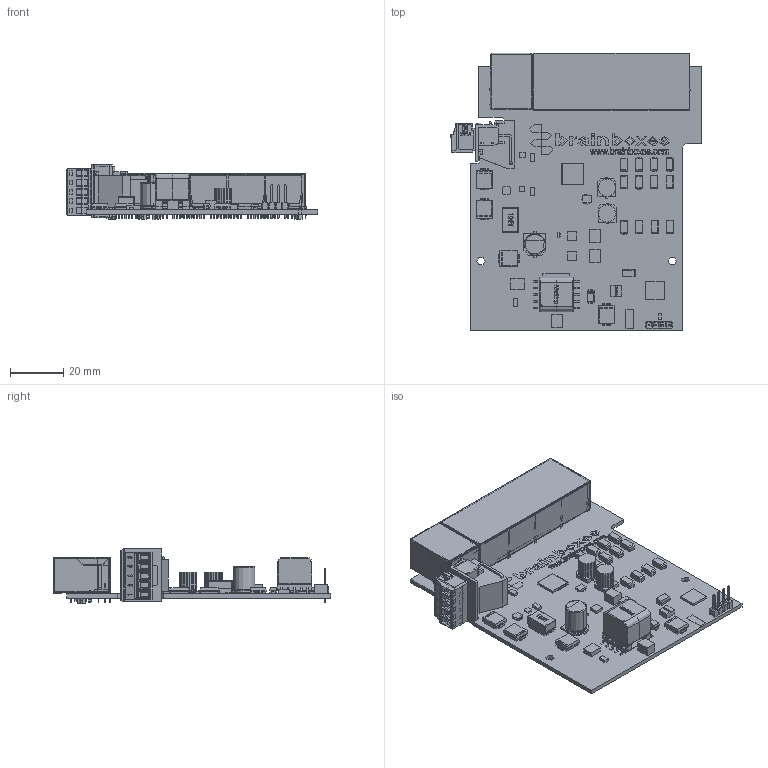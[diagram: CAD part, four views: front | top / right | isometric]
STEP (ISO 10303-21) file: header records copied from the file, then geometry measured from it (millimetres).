
FILE_DESCRIPTION(('STEP AP214'),'1');
FILE_NAME('SW-525 Uncased PCB 3D Step.step','2022-08-25T13:07:56',(' '),(' '),'Spatial InterOp 3D','XD3DPlugin XRACreate',' ');
FILE_SCHEMA(('automotive_design'));
Length unit declared in the file: millimetre
Products named in the file (93): Submodel-C:\Users\ben.hague\Desktop\3D Step\SW-525 Uncased PCB 3D Step_PCB\3D\Input_S\664U7H.xtd; 664U7H; Submodel-664U7H_part_simplified_30204020; DesignRootModel; Submodel-C:\Users\ben.hague\Desktop\3D Step\SW-525 Uncased PCB 3D Step_PCB\3D\Input_S\SMDLEDRA.xtd; SMDLEDRA; Submodel-55SMDLEDRAGREEN_part_simplified_SMDLEDRA; Submodel-C:\Users\ben.hague\Desktop\3D Step\SW-525 Uncased PCB 3D Step_PCB\3D\Input_S\00MAGJACK10100.xtd; 00MAGJACK10100; Submodel-00MAGJACK10100_part_simplified_MAGJACK10100; Submodel-C:\Users\ben.hague\Desktop\3D Step\SW-525 Uncased PCB 3D Step_PCB\3D\Input_S\00MAGJACK1X4POE.xtd; 00MAGJACK1X4POE; Submodel-00MAGJACK1X4POE_part_simplified_MAGJACK1X4POE; Submodel-C:\Users\ben.hague\Desktop\3D Step\SW-525 Uncased PCB 3D Step_PCB\3D\Input_S\50HEA2X1.xtd; 50HEA2X1; Submodel-50HEA2X1_part_simplified_H100MIL1X2; Submodel-C:\Users\ben.hague\Desktop\3D Step\SW-525 Uncased PCB 3D Step_PCB\3D\Input_S\6610UH1A03.xtd; 6610UH1A03; Submodel-6610UH1A03_part_simplified_3012; Submodel-C:\Users\ben.hague\Desktop\3D Step\SW-525 Uncased PCB 3D Step_PCB\3D\Input_S\55TVS58V400W.xtd; 55TVS58V400W; Submodel-55TVS58V400W_part_simplified_SMA; Submodel-C:\Users\ben.hague\Desktop\3D Step\SW-525 Uncased PCB 3D Step_PCB\3D\Input_S\SMC.xtd; SMC; Submodel-55TVS58V3KW_part_simplified_SMC; Submodel-C:\Users\ben.hague\Desktop\3D Step\SW-525 Uncased PCB 3D Step_PCB\3D\Input_S\66CHOKE2X4MH7.xtd; 66CHOKE2X4MH7; Submodel-66CHOKE2X4MH7_part_simplified_LINEFILTERD; Submodel-C:\Users\ben.hague\Desktop\3D Step\SW-525 Uncased PCB 3D Step_PCB\3D\Input_S\80750313812.xtd; 80750313812; Submodel-80750313812_part_simplified_TRANS10; Submodel-C:\Users\ben.hague\Desktop\3D Step\SW-525 Uncased PCB 3D Step_PCB\3D\Input_S\SMD_ELEC_F.xtd; SMD_ELEC_F; Submodel-7522UF100V_part_simplified_F; Submodel-C:\Users\ben.hague\Desktop\3D Step\SW-525 Uncased PCB 3D Step_PCB\3D\Input_S\SMD_ELEC_D.xtd; SMD_ELEC_D; Submodel-7547UF50V_part_simplified_SMD_ELEC_D; Submodel-C:\Users\ben.hague\Desktop\3D Step\SW-525 Uncased PCB 3D Step_PCB\3D\Input_S\82HEA3MM5TBX5_L_BLACK.xtd; 82HEA3MM5TBX5_L_BLACK; Submodel-82HEA3MM5TBX5_L_BLACK_part_simplified_TBX5_LEFT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
Assembly tree (113 placements, depth 5):
  SW-525 Uncased PCB 3D Step
    DesignRootModel
      Submodel-664U7H_part_simplified_30204020
        Submodel-C:\Users\ben.hague\Desktop\3D Step\SW-525 Uncased PCB 3D Step_PCB\3D\Input_S\664U7H.xtd
          664U7H
      Submodel-55SMDLEDRAGREEN_part_simplified_SMDLEDRA
        Submodel-C:\Users\ben.hague\Desktop\3D Step\SW-525 Uncased PCB 3D Step_PCB\3D\Input_S\SMDLEDRA.xtd
          SMDLEDRA
      Submodel-00MAGJACK10100_part_simplified_MAGJACK10100
        Submodel-C:\Users\ben.hague\Desktop\3D Step\SW-525 Uncased PCB 3D Step_PCB\3D\Input_S\00MAGJACK10100.xtd
          00MAGJACK10100
      Submodel-00MAGJACK1X4POE_part_simplified_MAGJACK1X4POE
        Submodel-C:\Users\ben.hague\Desktop\3D Step\SW-525 Uncased PCB 3D Step_PCB\3D\Input_S\00MAGJACK1X4POE.xtd
          00MAGJACK1X4POE
      Submodel-50HEA2X1_part_simplified_H100MIL1X2  x2
        Submodel-C:\Users\ben.hague\Desktop\3D Step\SW-525 Uncased PCB 3D Step_PCB\3D\Input_S\50HEA2X1.xtd
          50HEA2X1
      Submodel-6610UH1A03_part_simplified_3012
        Submodel-C:\Users\ben.hague\Desktop\3D Step\SW-525 Uncased PCB 3D Step_PCB\3D\Input_S\6610UH1A03.xtd
          6610UH1A03
      Submodel-55TVS58V400W_part_simplified_SMA  x13
        Submodel-C:\Users\ben.hague\Desktop\3D Step\SW-525 Uncased PCB 3D Step_PCB\3D\Input_S\55TVS58V400W.xtd
          55TVS58V400W
      Submodel-55TVS58V3KW_part_simplified_SMC  x4
        Submodel-C:\Users\ben.hague\Desktop\3D Step\SW-525 Uncased PCB 3D Step_PCB\3D\Input_S\SMC.xtd
          SMC
      Submodel-66CHOKE2X4MH7_part_simplified_LINEFILTERD
        Submodel-C:\Users\ben.hague\Desktop\3D Step\SW-525 Uncased PCB 3D Step_PCB\3D\Input_S\66CHOKE2X4MH7.xtd
          66CHOKE2X4MH7
      Submodel-80750313812_part_simplified_TRANS10
        Submodel-C:\Users\ben.hague\Desktop\3D Step\SW-525 Uncased PCB 3D Step_PCB\3D\Input_S\80750313812.xtd
          80750313812
      Submodel-7522UF100V_part_simplified_F
        Submodel-C:\Users\ben.hague\Desktop\3D Step\SW-525 Uncased PCB 3D Step_PCB\3D\Input_S\SMD_ELEC_F.xtd
          SMD_ELEC_F
      Submodel-7547UF50V_part_simplified_SMD_ELEC_D  x2
        Submodel-C:\Users\ben.hague\Desktop\3D Step\SW-525 Uncased PCB 3D Step_PCB\3D\Input_S\SMD_ELEC_D.xtd
          SMD_ELEC_D
      Submodel-82HEA3MM5TBX5_L_BLACK_part_simplified_TBX5_LEFT
        Submodel-C:\Users\ben.hague\Desktop\3D Step\SW-525 Uncased PCB 3D Step_PCB\3D\Input_S\82HEA3MM5TBX5_L_BLACK.xtd
          82HEA3MM5TBX5_L_BLACK
      Submodel-55MBRA40_part_simplified_SMA
        Submodel-C:\Users\ben.hague\Desktop\3D Step\SW-525 Uncased PCB 3D Step_PCB\3D\Input_S\SMA.xtd
          SMA
      uid__9223372036859851715
      Submodel-AssyDefn_4
        BrainboxesLogo.step
      Submodel-AssyDefn_3
        82PLUG3MM5_X5_1_5_BLCK.stp
      Submodel-DATUM_716889403_part_DATUM
        Submodel-noModelForPart_DATUM_716889403
          placementOutline
      Submodel-40XTAL25MI3X2_498445831_part_XTAL4A3X2
        Submodel-noModelForPart_40XTAL25MI3X2_498445831
          placementOutline
      Submodel-3574LVC2G17_2040619061_part_TSOP6  x2
        Submodel-noModelForPart_3574LVC2G17_2040619061
          placementOutline
      Submodel-68FDS86242_493368297_part_SOIC8
        Submodel-noModelForPart_68FDS86242_493368297
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Bounding box: 94.88 x 104.62 x 20.4 mm (x, y, z)
Volume: 31106.1 mm3; surface area: 58354.9 mm2
Topology: 154 solids, 264 shells, 10633 faces, 30645 edges, 20074 vertices
Faces by surface type: plane 8753, cylinder 1327, bspline 362, extrusion 93, torus 44, cone 38, sphere 16
Full cylindrical faces by diameter (mm): 0.5 x1, 0.8 x2, 3.81 x1
Entity records: 485438 total; most frequent: CARTESIAN_POINT 75067, ORIENTED_EDGE 67786, DIRECTION 62546, EDGE_CURVE 34021, VECTOR 28742, LINE 28649, VERTEX_POINT 22317, AXIS2_PLACEMENT_3D 16902
